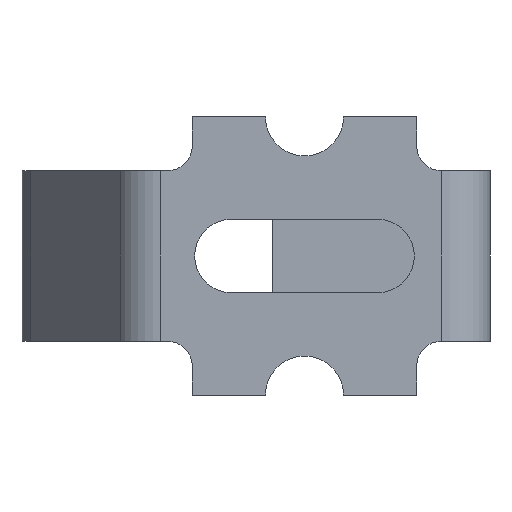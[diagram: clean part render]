
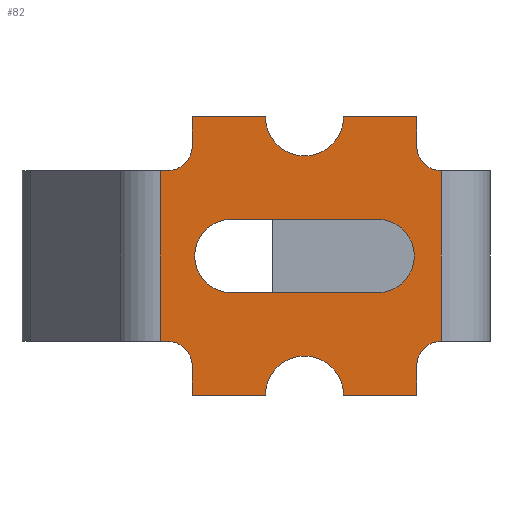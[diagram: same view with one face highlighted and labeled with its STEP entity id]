
A CAD part, front view. The second image highlights one B-rep face of the part: STEP entity #82.
In plain terms, the highlighted planar face has unit normal (0, -1, 0).
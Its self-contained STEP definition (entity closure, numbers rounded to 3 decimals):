
#82=ADVANCED_FACE('',(#161,#162),#163,.F.);
#161=FACE_OUTER_BOUND('',#303,.T.);
#162=FACE_BOUND('',#304,.T.);
#163=PLANE('',#305);
#303=EDGE_LOOP('',(#497,#498,#499,#500,#501,#502,#503,#504,#505,#506,#507,#508,#509,#510,#511,#512,#513,#514));
#304=EDGE_LOOP('',(#515,#516,#517,#518));
#305=AXIS2_PLACEMENT_3D('',#519,#520,#521);
#497=ORIENTED_EDGE('',*,*,#1006,.F.);
#498=ORIENTED_EDGE('',*,*,#1007,.F.);
#499=ORIENTED_EDGE('',*,*,#1008,.T.);
#500=ORIENTED_EDGE('',*,*,#1009,.T.);
#501=ORIENTED_EDGE('',*,*,#1010,.F.);
#502=ORIENTED_EDGE('',*,*,#1011,.F.);
#503=ORIENTED_EDGE('',*,*,#1012,.T.);
#504=ORIENTED_EDGE('',*,*,#1013,.F.);
#505=ORIENTED_EDGE('',*,*,#1014,.F.);
#506=ORIENTED_EDGE('',*,*,#1015,.F.);
#507=ORIENTED_EDGE('',*,*,#1016,.F.);
#508=ORIENTED_EDGE('',*,*,#1017,.F.);
#509=ORIENTED_EDGE('',*,*,#1018,.T.);
#510=ORIENTED_EDGE('',*,*,#1019,.T.);
#511=ORIENTED_EDGE('',*,*,#1020,.T.);
#512=ORIENTED_EDGE('',*,*,#1021,.F.);
#513=ORIENTED_EDGE('',*,*,#1022,.F.);
#514=ORIENTED_EDGE('',*,*,#1023,.F.);
#515=ORIENTED_EDGE('',*,*,#999,.F.);
#516=ORIENTED_EDGE('',*,*,#1005,.F.);
#517=ORIENTED_EDGE('',*,*,#1003,.F.);
#518=ORIENTED_EDGE('',*,*,#1001,.F.);
#519=CARTESIAN_POINT('',(4.7,0.0,-1.75));
#520=DIRECTION('',(-0.0,1.0,0.0));
#521=DIRECTION('',(1.0,0.0,0.0));
#999=EDGE_CURVE('',#1192,#1194,#1195,.T.);
#1001=EDGE_CURVE('',#1194,#1197,#1198,.T.);
#1003=EDGE_CURVE('',#1197,#1200,#1201,.T.);
#1005=EDGE_CURVE('',#1200,#1192,#1203,.T.);
#1006=EDGE_CURVE('',#1204,#1205,#1206,.T.);
#1007=EDGE_CURVE('',#1207,#1204,#1208,.T.);
#1008=EDGE_CURVE('',#1207,#1209,#1210,.T.);
#1009=EDGE_CURVE('',#1209,#1211,#1212,.T.);
#1010=EDGE_CURVE('',#1213,#1211,#1214,.T.);
#1011=EDGE_CURVE('',#1215,#1213,#1216,.T.);
#1012=EDGE_CURVE('',#1215,#1217,#1218,.T.);
#1013=EDGE_CURVE('',#1219,#1217,#1220,.T.);
#1014=EDGE_CURVE('',#1221,#1219,#1222,.T.);
#1015=EDGE_CURVE('',#1223,#1221,#1224,.T.);
#1016=EDGE_CURVE('',#1225,#1223,#1226,.T.);
#1017=EDGE_CURVE('',#1227,#1225,#1228,.T.);
#1018=EDGE_CURVE('',#1227,#1229,#1230,.T.);
#1019=EDGE_CURVE('',#1229,#1231,#1232,.T.);
#1020=EDGE_CURVE('',#1231,#1233,#1234,.T.);
#1021=EDGE_CURVE('',#1235,#1233,#1236,.T.);
#1022=EDGE_CURVE('',#1237,#1235,#1238,.T.);
#1023=EDGE_CURVE('',#1205,#1237,#1239,.T.);
#1192=VERTEX_POINT('',#1470);
#1194=VERTEX_POINT('',#1473);
#1195=CIRCLE('',#1474,0.75);
#1197=VERTEX_POINT('',#1477);
#1198=LINE('',#1478,#1479);
#1200=VERTEX_POINT('',#1482);
#1201=CIRCLE('',#1483,0.75);
#1203=LINE('',#1486,#1487);
#1204=VERTEX_POINT('',#1488);
#1205=VERTEX_POINT('',#1489);
#1206=LINE('',#1490,#1491);
#1207=VERTEX_POINT('',#1492);
#1208=LINE('',#1493,#1494);
#1209=VERTEX_POINT('',#1495);
#1210=CIRCLE('',#1496,0.5);
#1211=VERTEX_POINT('',#1497);
#1212=LINE('',#1498,#1499);
#1213=VERTEX_POINT('',#1500);
#1214=LINE('',#1501,#1502);
#1215=VERTEX_POINT('',#1503);
#1216=LINE('',#1504,#1505);
#1217=VERTEX_POINT('',#1506);
#1218=CIRCLE('',#1507,0.5);
#1219=VERTEX_POINT('',#1508);
#1220=LINE('',#1509,#1510);
#1221=VERTEX_POINT('',#1511);
#1222=LINE('',#1512,#1513);
#1223=VERTEX_POINT('',#1514);
#1224=CIRCLE('',#1515,0.8);
#1225=VERTEX_POINT('',#1516);
#1226=LINE('',#1517,#1518);
#1227=VERTEX_POINT('',#1519);
#1228=LINE('',#1520,#1521);
#1229=VERTEX_POINT('',#1522);
#1230=CIRCLE('',#1523,0.5);
#1231=VERTEX_POINT('',#1524);
#1232=LINE('',#1525,#1526);
#1233=VERTEX_POINT('',#1527);
#1234=CIRCLE('',#1528,0.5);
#1235=VERTEX_POINT('',#1529);
#1236=LINE('',#1530,#1531);
#1237=VERTEX_POINT('',#1532);
#1238=LINE('',#1533,#1534);
#1239=CIRCLE('',#1535,0.8);
#1470=CARTESIAN_POINT('',(0.4,0.0,0.75));
#1473=CARTESIAN_POINT('',(0.4,0.0,-0.75));
#1474=AXIS2_PLACEMENT_3D('',#1823,#1824,#1825);
#1477=CARTESIAN_POINT('',(3.4,0.0,-0.75));
#1478=CARTESIAN_POINT('',(0.4,0.0,-0.75));
#1479=VECTOR('',#1827,3.0);
#1482=CARTESIAN_POINT('',(3.4,0.0,0.75));
#1483=AXIS2_PLACEMENT_3D('',#1829,#1830,#1831);
#1486=CARTESIAN_POINT('',(3.4,0.0,0.75));
#1487=VECTOR('',#1833,3.0);
#1488=CARTESIAN_POINT('',(-0.4,0.0,2.85));
#1489=CARTESIAN_POINT('',(1.1,0.0,2.85));
#1490=CARTESIAN_POINT('',(-0.4,0.0,2.85));
#1491=VECTOR('',#1834,1.5);
#1492=CARTESIAN_POINT('',(-0.4,0.0,2.25));
#1493=CARTESIAN_POINT('',(-0.4,0.0,2.25));
#1494=VECTOR('',#1835,0.6);
#1495=CARTESIAN_POINT('',(-0.9,0.0,1.75));
#1496=AXIS2_PLACEMENT_3D('',#1836,#1837,#1838);
#1497=CARTESIAN_POINT('',(-1.052,0.0,1.75));
#1498=CARTESIAN_POINT('',(-0.9,0.0,1.75));
#1499=VECTOR('',#1839,0.152);
#1500=CARTESIAN_POINT('',(-1.052,0.0,-1.75));
#1501=CARTESIAN_POINT('',(-1.052,0.0,-1.75));
#1502=VECTOR('',#1840,3.5);
#1503=CARTESIAN_POINT('',(-0.9,0.0,-1.75));
#1504=CARTESIAN_POINT('',(-0.9,0.0,-1.75));
#1505=VECTOR('',#1841,0.152);
#1506=CARTESIAN_POINT('',(-0.4,0.0,-2.25));
#1507=AXIS2_PLACEMENT_3D('',#1842,#1843,#1844);
#1508=CARTESIAN_POINT('',(-0.4,0.0,-2.85));
#1509=CARTESIAN_POINT('',(-0.4,0.0,-2.85));
#1510=VECTOR('',#1845,0.6);
#1511=CARTESIAN_POINT('',(1.1,0.0,-2.85));
#1512=CARTESIAN_POINT('',(1.1,0.0,-2.85));
#1513=VECTOR('',#1846,1.5);
#1514=CARTESIAN_POINT('',(2.7,0.0,-2.85));
#1515=AXIS2_PLACEMENT_3D('',#1847,#1848,#1849);
#1516=CARTESIAN_POINT('',(4.2,0.0,-2.85));
#1517=CARTESIAN_POINT('',(4.2,0.0,-2.85));
#1518=VECTOR('',#1850,1.5);
#1519=CARTESIAN_POINT('',(4.2,0.0,-2.25));
#1520=CARTESIAN_POINT('',(4.2,0.0,-2.25));
#1521=VECTOR('',#1851,0.6);
#1522=CARTESIAN_POINT('',(4.7,0.0,-1.75));
#1523=AXIS2_PLACEMENT_3D('',#1852,#1853,#1854);
#1524=CARTESIAN_POINT('',(4.7,0.0,1.75));
#1525=CARTESIAN_POINT('',(4.7,0.0,-1.75));
#1526=VECTOR('',#1855,3.5);
#1527=CARTESIAN_POINT('',(4.2,0.0,2.25));
#1528=AXIS2_PLACEMENT_3D('',#1856,#1857,#1858);
#1529=CARTESIAN_POINT('',(4.2,0.0,2.85));
#1530=CARTESIAN_POINT('',(4.2,0.0,2.85));
#1531=VECTOR('',#1859,0.6);
#1532=CARTESIAN_POINT('',(2.7,0.0,2.85));
#1533=CARTESIAN_POINT('',(2.7,0.0,2.85));
#1534=VECTOR('',#1860,1.5);
#1535=AXIS2_PLACEMENT_3D('',#1861,#1862,#1863);
#1823=CARTESIAN_POINT('',(0.4,0.0,0.0));
#1824=DIRECTION('',(0.0,-1.0,0.0));
#1825=DIRECTION('',(0.0,0.0,1.0));
#1827=DIRECTION('',(1.0,0.0,0.0));
#1829=CARTESIAN_POINT('',(3.4,0.0,0.0));
#1830=DIRECTION('',(0.0,-1.0,0.0));
#1831=DIRECTION('',(0.0,0.0,-1.0));
#1833=DIRECTION('',(-1.0,0.0,0.0));
#1834=DIRECTION('',(1.0,0.0,0.0));
#1835=DIRECTION('',(0.0,0.0,1.0));
#1836=CARTESIAN_POINT('',(-0.9,0.0,2.25));
#1837=DIRECTION('',(-0.0,1.0,0.0));
#1838=DIRECTION('',(1.0,0.0,0.0));
#1839=DIRECTION('',(-1.0,0.0,0.0));
#1840=DIRECTION('',(0.0,0.0,1.0));
#1841=DIRECTION('',(-1.0,0.0,0.0));
#1842=CARTESIAN_POINT('',(-0.9,0.0,-2.25));
#1843=DIRECTION('',(0.0,1.0,0.0));
#1844=DIRECTION('',(0.0,0.0,1.0));
#1845=DIRECTION('',(0.0,0.0,1.0));
#1846=DIRECTION('',(-1.0,0.0,0.0));
#1847=CARTESIAN_POINT('',(1.9,0.0,-2.85));
#1848=DIRECTION('',(0.0,-1.0,0.0));
#1849=DIRECTION('',(1.0,0.0,0.0));
#1850=DIRECTION('',(-1.0,0.0,0.0));
#1851=DIRECTION('',(0.0,0.0,-1.0));
#1852=CARTESIAN_POINT('',(4.7,0.0,-2.25));
#1853=DIRECTION('',(0.0,1.0,0.0));
#1854=DIRECTION('',(-1.0,0.0,0.0));
#1855=DIRECTION('',(0.0,0.0,1.0));
#1856=CARTESIAN_POINT('',(4.7,0.0,2.25));
#1857=DIRECTION('',(0.0,1.0,0.0));
#1858=DIRECTION('',(0.0,0.0,-1.0));
#1859=DIRECTION('',(0.0,0.0,-1.0));
#1860=DIRECTION('',(1.0,0.0,0.0));
#1861=CARTESIAN_POINT('',(1.9,0.0,2.85));
#1862=DIRECTION('',(0.0,-1.0,0.0));
#1863=DIRECTION('',(-1.0,0.0,0.0));
